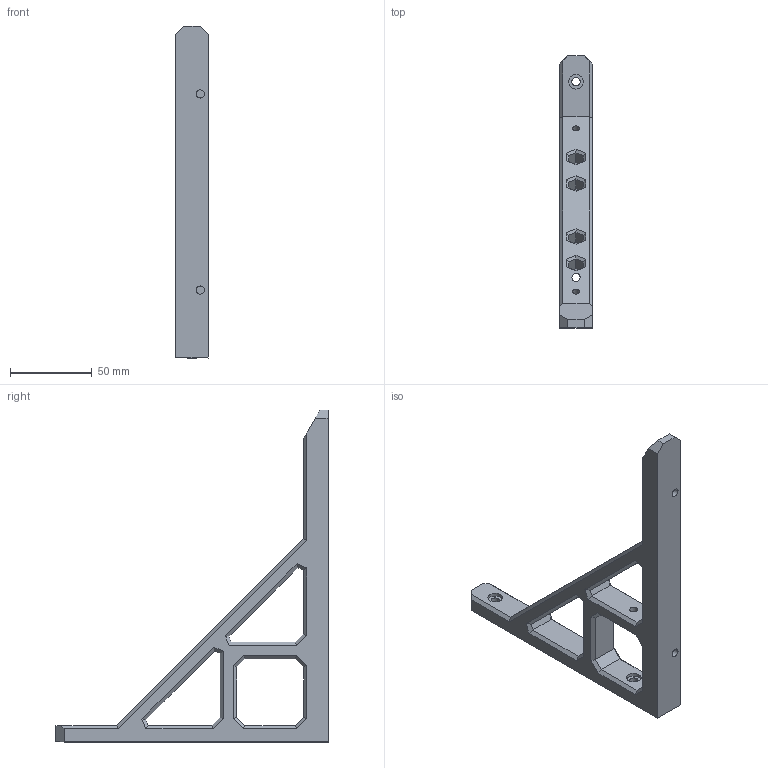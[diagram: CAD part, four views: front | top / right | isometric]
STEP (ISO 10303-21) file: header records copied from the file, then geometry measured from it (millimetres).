
FILE_DESCRIPTION(/* description */ (''),/* implementation_level */ '2;1');
FILE_NAME(/* name */ '8in Shelf Bracket (Left).step',/* time_stamp */ '2026-05-02T09:57:35-04:00',/* author */ (''),/* organization */ (''),/* preprocessor_version */ 'ST-DEVELOPER v20.1',/* originating_system */ 'Autodesk Translation Framework v15.8.0.0',/* authorisation */ '');
FILE_SCHEMA (('AUTOMOTIVE_DESIGN { 1 0 10303 214 3 1 1 }'));
Length unit declared in the file: millimetre
Products named in the file (1): 8in Shelf Bracket (Left)
Bounding box: 20 x 166.6 x 203.2 mm (x, y, z)
Volume: 133029.8 mm3; surface area: 36098.1 mm2
Topology: 1 solids, 1 shells, 144 faces, 343 edges, 206 vertices
Faces by surface type: plane 134, cylinder 10
Full cylindrical faces by diameter (mm): 4.1 x2, 5 x6, 9 x2
Entity records: 4083 total; most frequent: CARTESIAN_POINT 694, ORIENTED_EDGE 686, DIRECTION 656, EDGE_CURVE 343, LINE 320, VECTOR 320, VERTEX_POINT 206, EDGE_LOOP 171
